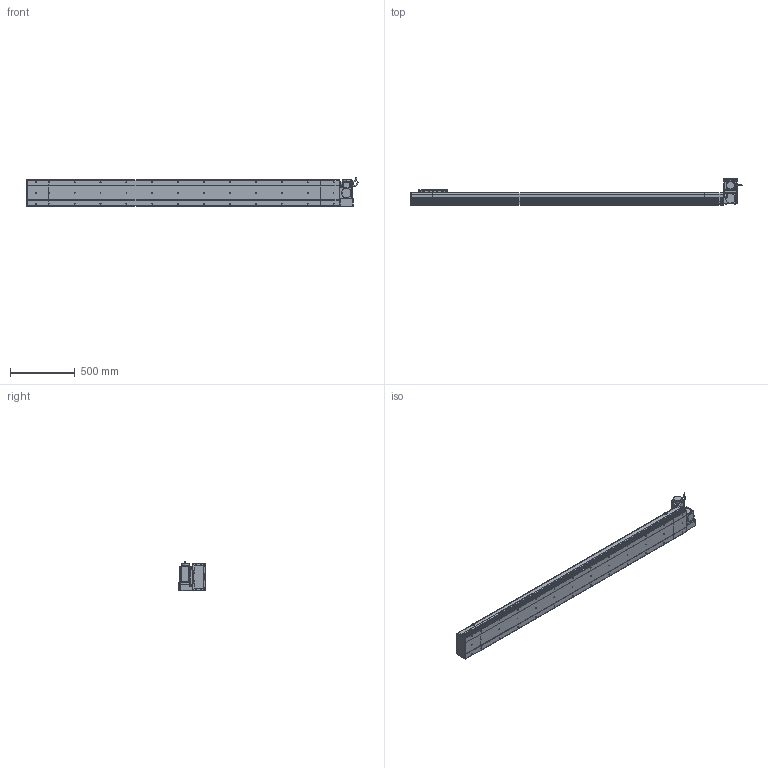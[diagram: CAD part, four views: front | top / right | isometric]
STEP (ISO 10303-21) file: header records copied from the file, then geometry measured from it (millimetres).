
FILE_DESCRIPTION (( 'STEP AP214' ), '1' );
FILE_NAME ('D20 CBH RT S2100.STEP', '2010-06-30T09:58:53', ( 'Conseil Régional Haute-Normandie' ), ( 'Conseil Régional Haute-Normandie' ), 'SwSTEP 2.0', 'SolidWorks 2010', '' );
FILE_SCHEMA (( 'AUTOMOTIVE_DESIGN' ));
Length unit declared in the file: millimetre
Products named in the file (31): ecrou_Default; Plaque de Bout Tail D20_Default; Corp Tail D20+100_Default; Tail D20+100_Default; Couvercle_Default; Couvercle S2100_Default; Corp S2100_Default; Corp D20 S2100_Default; Chariot D20_Default; Rondelle Cache D20 RT_Default; vis M5 L47_Default; Glissiere_Default; Support Chariot D20_Default; Cache Support Moteur RT_Default; Plaque De Serrage D20_Default; vis M5 L15_Default; Head RT_Default; D20 CBH RT S2100; Plaque de Bout Head D20 RT_Default; Couvercle RT_Default; Corp Tail D20 RT_Default; Moteur motionking 90BLDC125A-640; Support moteur RT_Default; Plaque De Serrage D20 RT_Default; codeur 90BLDC125-640; corps 90BLDC125A-640; avant 90BLDC125A-640; vis M5 L30_Default; Conecteur_Default; Conecteur2_Default
Assembly tree (68 placements, depth 4):
  D20 CBH RT S2100
    Chariot D20_Default
      vis M5 L15_Default  x8
      Glissiere_Default
      Chariot D20_Default
      Support Chariot D20_Default
    Head RT_Default
      ecrou_Default  x4
      Moteur motionking 90BLDC125A-640
        codeur 90BLDC125-640
        Conecteur_Default
        Conecteur2_Default
        avant 90BLDC125A-640
        corps 90BLDC125A-640
      vis M5 L15_Default  x14
      vis M5 L47_Default  x4
      Plaque de Bout Head D20 RT_Default
      vis M5 L30_Default  x4
      Rondelle Cache D20 RT_Default  x3
      Plaque De Serrage D20 RT_Default
      Support moteur RT_Default
      Cache Support Moteur RT_Default
      Corp Tail D20 RT_Default
      Couvercle RT_Default
    Tail D20+100_Default
      vis M5 L15_Default  x6
      Plaque De Serrage D20_Default
      Corp Tail D20+100_Default
      Plaque de Bout Tail D20_Default
      Couvercle_Default
    Corp D20 S2100_Default
      Corp S2100_Default
      Couvercle S2100_Default
Bounding box: 2564.45 x 206.5 x 229.7 mm (x, y, z)
Volume: 17555607.9 mm3; surface area: 3424369.6 mm2
Topology: 105 solids, 105 shells, 3829 faces, 9534 edges, 6190 vertices
Faces by surface type: plane 2134, bspline 806, cylinder 718, torus 95, cone 72, sphere 4
Entity records: 159830 total; most frequent: CARTESIAN_POINT 82385, ORIENTED_EDGE 15336, DIRECTION 11686, EDGE_CURVE 7668, VERTEX_POINT 5074, LINE 4960, VECTOR 4960, AXIS2_PLACEMENT_3D 3363
